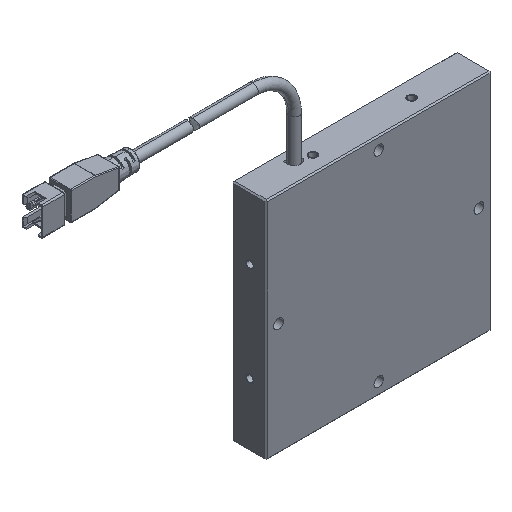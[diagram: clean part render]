
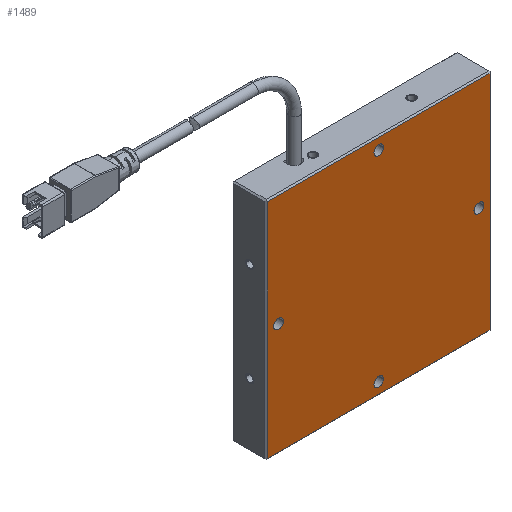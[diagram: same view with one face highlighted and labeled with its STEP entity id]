
A CAD part, isometric view. The second image highlights one B-rep face of the part: STEP entity #1489.
In plain terms, the highlighted planar face has unit normal (0, -1, 0).
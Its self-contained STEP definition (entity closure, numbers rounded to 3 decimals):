
#1=DIRECTION('',(0.,0.,-1.));
#2=VECTOR('',#1,81.);
#3=CARTESIAN_POINT('',(40.5,0.,40.5));
#4=LINE('',#3,#2);
#5=DIRECTION('',(-1.,0.,0.));
#6=VECTOR('',#5,81.);
#7=CARTESIAN_POINT('',(40.5,0.,-40.5));
#8=LINE('',#7,#6);
#9=DIRECTION('',(0.,0.,1.));
#10=VECTOR('',#9,81.);
#11=CARTESIAN_POINT('',(-40.5,0.,-40.5));
#12=LINE('',#11,#10);
#13=DIRECTION('',(1.,0.,0.));
#14=VECTOR('',#13,81.);
#15=CARTESIAN_POINT('',(-40.5,0.,40.5));
#16=LINE('',#15,#14);
#17=CARTESIAN_POINT('',(36.5,0.,0.));
#18=DIRECTION('',(0.,-1.,0.));
#19=DIRECTION('',(-1.,0.,0.));
#20=AXIS2_PLACEMENT_3D('',#17,#18,#19);
#22=CARTESIAN_POINT('',(36.5,0.,0.));
#23=DIRECTION('',(0.,-1.,0.));
#24=DIRECTION('',(1.,0.,0.));
#25=AXIS2_PLACEMENT_3D('',#22,#23,#24);
#27=CARTESIAN_POINT('',(-36.5,0.,0.));
#28=DIRECTION('',(0.,-1.,0.));
#29=DIRECTION('',(-1.,0.,0.));
#30=AXIS2_PLACEMENT_3D('',#27,#28,#29);
#32=CARTESIAN_POINT('',(-36.5,0.,0.));
#33=DIRECTION('',(0.,-1.,0.));
#34=DIRECTION('',(1.,0.,0.));
#35=AXIS2_PLACEMENT_3D('',#32,#33,#34);
#37=CARTESIAN_POINT('',(0.,0.,-36.5));
#38=DIRECTION('',(0.,-1.,0.));
#39=DIRECTION('',(-1.,0.,0.));
#40=AXIS2_PLACEMENT_3D('',#37,#38,#39);
#42=CARTESIAN_POINT('',(0.,0.,-36.5));
#43=DIRECTION('',(0.,-1.,0.));
#44=DIRECTION('',(1.,0.,0.));
#45=AXIS2_PLACEMENT_3D('',#42,#43,#44);
#47=CARTESIAN_POINT('',(0.,0.,36.5));
#48=DIRECTION('',(0.,-1.,0.));
#49=DIRECTION('',(1.,0.,0.));
#50=AXIS2_PLACEMENT_3D('',#47,#48,#49);
#52=CARTESIAN_POINT('',(0.,0.,36.5));
#53=DIRECTION('',(0.,-1.,0.));
#54=DIRECTION('',(-1.,0.,0.));
#55=AXIS2_PLACEMENT_3D('',#52,#53,#54);
#1118=CARTESIAN_POINT('',(40.5,0.,40.5));
#1119=CARTESIAN_POINT('',(40.5,0.,-40.5));
#1120=VERTEX_POINT('',#1118);
#1121=VERTEX_POINT('',#1119);
#1122=CARTESIAN_POINT('',(-40.5,0.,-40.5));
#1123=VERTEX_POINT('',#1122);
#1124=CARTESIAN_POINT('',(-40.5,0.,40.5));
#1125=VERTEX_POINT('',#1124);
#1126=CARTESIAN_POINT('',(34.75,0.,0.));
#1127=CARTESIAN_POINT('',(38.25,0.,0.));
#1128=VERTEX_POINT('',#1126);
#1129=VERTEX_POINT('',#1127);
#1130=CARTESIAN_POINT('',(-38.25,0.,0.));
#1131=CARTESIAN_POINT('',(-34.75,0.,0.));
#1132=VERTEX_POINT('',#1130);
#1133=VERTEX_POINT('',#1131);
#1134=CARTESIAN_POINT('',(-1.75,0.,-36.5));
#1135=CARTESIAN_POINT('',(1.75,0.,-36.5));
#1136=VERTEX_POINT('',#1134);
#1137=VERTEX_POINT('',#1135);
#1138=CARTESIAN_POINT('',(1.75,0.,36.5));
#1139=CARTESIAN_POINT('',(-1.75,0.,36.5));
#1140=VERTEX_POINT('',#1138);
#1141=VERTEX_POINT('',#1139);
#1450=CARTESIAN_POINT('',(0.,0.,0.));
#1451=DIRECTION('',(0.,1.,0.));
#1452=DIRECTION('',(1.,0.,0.));
#1453=AXIS2_PLACEMENT_3D('',#1450,#1451,#1452);
#1454=PLANE('',#1453);
#1456=ORIENTED_EDGE('',*,*,#1455,.T.);
#1458=ORIENTED_EDGE('',*,*,#1457,.T.);
#1460=ORIENTED_EDGE('',*,*,#1459,.T.);
#1462=ORIENTED_EDGE('',*,*,#1461,.T.);
#1463=EDGE_LOOP('',(#1456,#1458,#1460,#1462));
#1464=FACE_OUTER_BOUND('',#1463,.F.);
#1466=ORIENTED_EDGE('',*,*,#1465,.T.);
#1468=ORIENTED_EDGE('',*,*,#1467,.T.);
#1469=EDGE_LOOP('',(#1466,#1468));
#1470=FACE_BOUND('',#1469,.F.);
#1472=ORIENTED_EDGE('',*,*,#1471,.T.);
#1474=ORIENTED_EDGE('',*,*,#1473,.T.);
#1475=EDGE_LOOP('',(#1472,#1474));
#1476=FACE_BOUND('',#1475,.F.);
#1478=ORIENTED_EDGE('',*,*,#1477,.T.);
#1480=ORIENTED_EDGE('',*,*,#1479,.T.);
#1481=EDGE_LOOP('',(#1478,#1480));
#1482=FACE_BOUND('',#1481,.F.);
#1484=ORIENTED_EDGE('',*,*,#1483,.T.);
#1486=ORIENTED_EDGE('',*,*,#1485,.T.);
#1487=EDGE_LOOP('',(#1484,#1486));
#1488=FACE_BOUND('',#1487,.F.);
#21=CIRCLE('',#20,1.75);
#26=CIRCLE('',#25,1.75);
#31=CIRCLE('',#30,1.75);
#36=CIRCLE('',#35,1.75);
#41=CIRCLE('',#40,1.75);
#46=CIRCLE('',#45,1.75);
#51=CIRCLE('',#50,1.75);
#56=CIRCLE('',#55,1.75);
#1455=EDGE_CURVE('',#1120,#1121,#4,.T.);
#1457=EDGE_CURVE('',#1121,#1123,#8,.T.);
#1459=EDGE_CURVE('',#1123,#1125,#12,.T.);
#1461=EDGE_CURVE('',#1125,#1120,#16,.T.);
#1465=EDGE_CURVE('',#1128,#1129,#21,.T.);
#1467=EDGE_CURVE('',#1129,#1128,#26,.T.);
#1471=EDGE_CURVE('',#1132,#1133,#31,.T.);
#1473=EDGE_CURVE('',#1133,#1132,#36,.T.);
#1477=EDGE_CURVE('',#1136,#1137,#41,.T.);
#1479=EDGE_CURVE('',#1137,#1136,#46,.T.);
#1483=EDGE_CURVE('',#1140,#1141,#51,.T.);
#1485=EDGE_CURVE('',#1141,#1140,#56,.T.);
#1489=ADVANCED_FACE('',(#1464,#1470,#1476,#1482,#1488),#1454,.F.);
